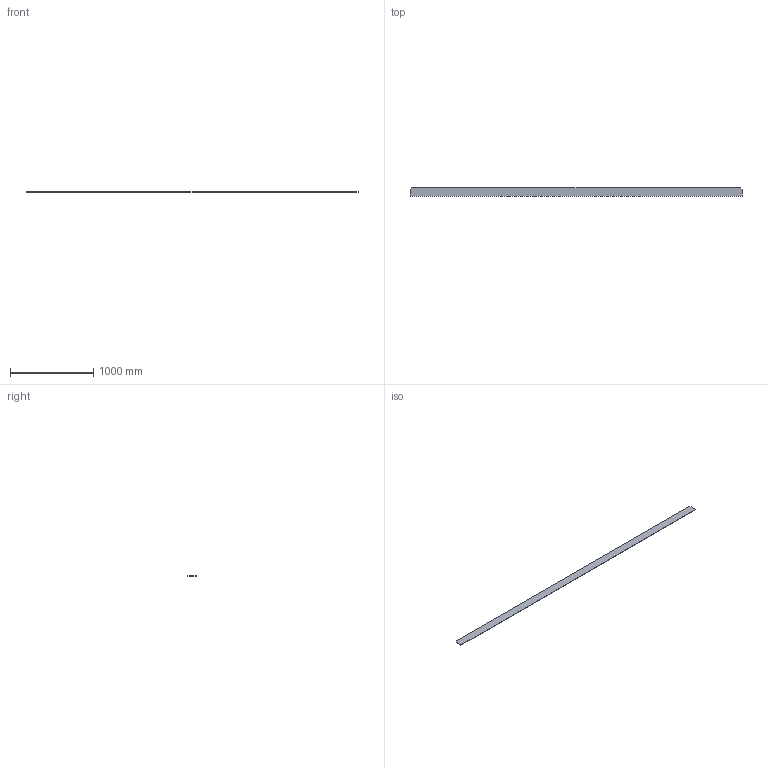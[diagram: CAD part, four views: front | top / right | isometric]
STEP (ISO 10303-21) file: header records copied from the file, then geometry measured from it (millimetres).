
FILE_DESCRIPTION (( 'STEP AP203' ), '1' );
FILE_NAME ('356.262.001.STEP', '2013-02-01T07:58:08', ( 'Alusic' ), ( 'Alusic' ), 'SwSTEP 2.0', 'SolidWorks 2011', '' );
FILE_SCHEMA (( 'CONFIG_CONTROL_DESIGN' ));
Length unit declared in the file: millimetre
Products named in the file (1): 356.262.001
Bounding box: 4000 x 100 x 4 mm (x, y, z)
Volume: 1598400 mm3; surface area: 831906.3 mm2
Topology: 1 solids, 1 shells, 8 faces, 18 edges, 12 vertices
Faces by surface type: plane 8
Entity records: 299 total; most frequent: CARTESIAN_POINT 39, ORIENTED_EDGE 36, DIRECTION 36, EDGE_CURVE 18, LINE 18, VECTOR 18, VERTEX_POINT 12, AXIS2_PLACEMENT_3D 9
